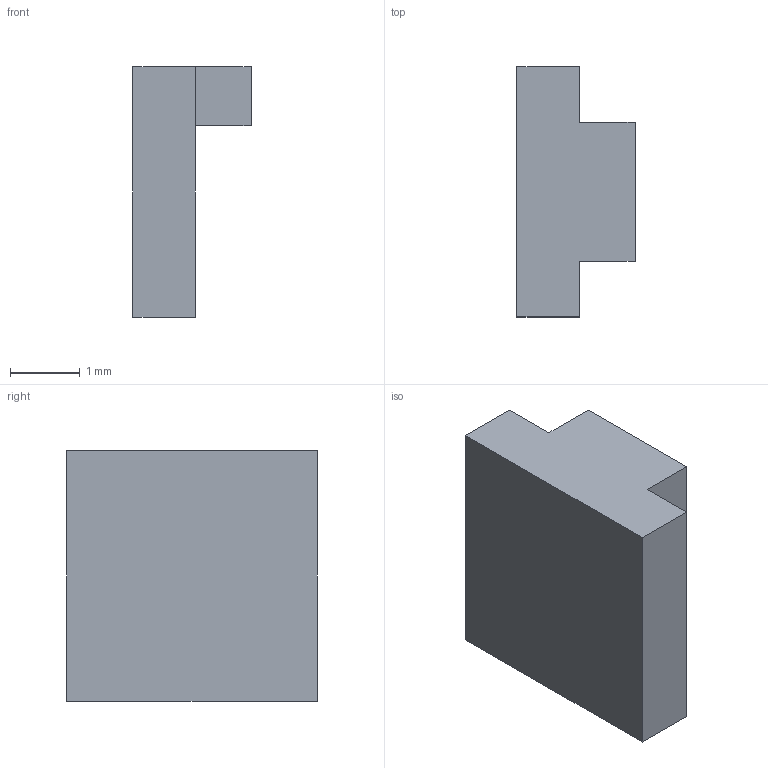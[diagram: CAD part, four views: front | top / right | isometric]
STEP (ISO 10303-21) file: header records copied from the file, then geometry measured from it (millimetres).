
FILE_DESCRIPTION(('Open CASCADE Model'),'2;1');
FILE_NAME('Open CASCADE Shape Model','2026-09-09T11:51:01',('Author'),( 'Open CASCADE'),'Open CASCADE STEP processor 7.7','Open CASCADE 7.7' ,'Unknown');
FILE_SCHEMA(('AUTOMOTIVE_DESIGN { 1 0 10303 214 1 1 1 1 }'));
Length unit declared in the file: millimetre
Products named in the file (1): Open CASCADE STEP translator 7.7 20
Bounding box: 1.7 x 3.6 x 3.6 mm (x, y, z)
Volume: 13 mm3; surface area: 43.4 mm2
Topology: 1 solids, 1 shells, 10 faces, 24 edges, 16 vertices
Faces by surface type: plane 10
Entity records: 610 total; most frequent: CARTESIAN_POINT 99, DIRECTION 94, LINE 72, VECTOR 72, ORIENTED_EDGE 48, PCURVE 48, DEFINITIONAL_REPRESENTATION 48, EDGE_CURVE 24
